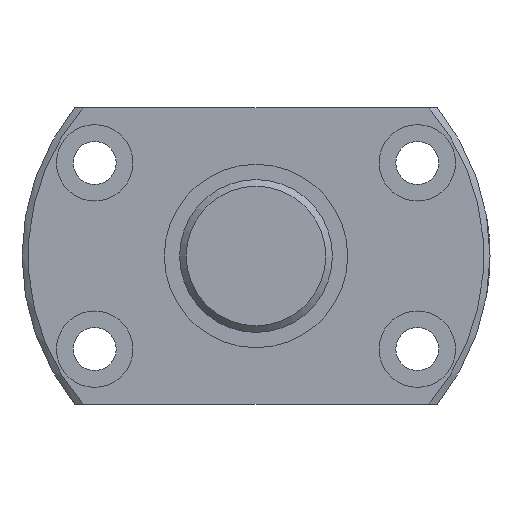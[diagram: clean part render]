
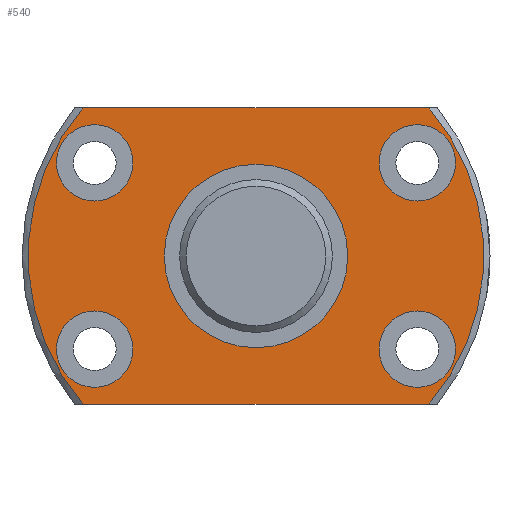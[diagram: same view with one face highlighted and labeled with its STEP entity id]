
A CAD part, left-side view. The second image highlights one B-rep face of the part: STEP entity #540.
In plain terms, the highlighted planar face has unit normal (-1, 0, 0).
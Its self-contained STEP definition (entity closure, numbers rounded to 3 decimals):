
#28=LINE('',#893,#36);
#29=LINE('',#898,#37);
#36=VECTOR('',#721,1000.);
#37=VECTOR('',#724,1000.);
#91=ORIENTED_EDGE('',*,*,#207,.T.);
#92=ORIENTED_EDGE('',*,*,#208,.T.);
#93=ORIENTED_EDGE('',*,*,#209,.T.);
#94=ORIENTED_EDGE('',*,*,#210,.T.);
#95=ORIENTED_EDGE('',*,*,#211,.T.);
#96=ORIENTED_EDGE('',*,*,#212,.F.);
#97=ORIENTED_EDGE('',*,*,#213,.T.);
#98=ORIENTED_EDGE('',*,*,#214,.F.);
#99=ORIENTED_EDGE('',*,*,#215,.T.);
#207=EDGE_CURVE('',#267,#267,#319,.T.);
#208=EDGE_CURVE('',#268,#268,#320,.T.);
#209=EDGE_CURVE('',#269,#269,#321,.T.);
#210=EDGE_CURVE('',#270,#270,#322,.T.);
#211=EDGE_CURVE('',#271,#271,#323,.T.);
#212=EDGE_CURVE('',#272,#273,#28,.T.);
#213=EDGE_CURVE('',#272,#274,#324,.F.);
#214=EDGE_CURVE('',#275,#274,#29,.T.);
#215=EDGE_CURVE('',#275,#273,#325,.F.);
#267=VERTEX_POINT('',#884);
#268=VERTEX_POINT('',#886);
#269=VERTEX_POINT('',#888);
#270=VERTEX_POINT('',#890);
#271=VERTEX_POINT('',#892);
#272=VERTEX_POINT('',#894);
#273=VERTEX_POINT('',#895);
#274=VERTEX_POINT('',#897);
#275=VERTEX_POINT('',#899);
#319=CIRCLE('',#613,9.6);
#320=CIRCLE('',#614,4.);
#321=CIRCLE('',#615,4.);
#322=CIRCLE('',#616,4.);
#323=CIRCLE('',#617,4.);
#324=CIRCLE('',#618,23.85);
#325=CIRCLE('',#619,23.85);
#365=EDGE_LOOP('',(#91));
#366=EDGE_LOOP('',(#92));
#367=EDGE_LOOP('',(#93));
#368=EDGE_LOOP('',(#94));
#369=EDGE_LOOP('',(#95));
#370=EDGE_LOOP('',(#96,#97,#98,#99));
#447=FACE_BOUND('',#365,.T.);
#448=FACE_BOUND('',#366,.T.);
#449=FACE_BOUND('',#367,.T.);
#450=FACE_BOUND('',#368,.T.);
#451=FACE_BOUND('',#369,.T.);
#452=FACE_BOUND('',#370,.T.);
#523=PLANE('',#612);
#540=ADVANCED_FACE('',(#447,#448,#449,#450,#451,#452),#523,.F.);
#612=AXIS2_PLACEMENT_3D('',#882,#709,#710);
#613=AXIS2_PLACEMENT_3D('',#883,#711,#712);
#614=AXIS2_PLACEMENT_3D('',#885,#713,#714);
#615=AXIS2_PLACEMENT_3D('',#887,#715,#716);
#616=AXIS2_PLACEMENT_3D('',#889,#717,#718);
#617=AXIS2_PLACEMENT_3D('',#891,#719,#720);
#618=AXIS2_PLACEMENT_3D('',#896,#722,#723);
#619=AXIS2_PLACEMENT_3D('',#900,#725,#726);
#709=DIRECTION('',(1.,0.,0.));
#710=DIRECTION('',(0.,0.,-1.));
#711=DIRECTION('',(1.,0.,0.));
#712=DIRECTION('',(0.,0.,-1.));
#713=DIRECTION('',(1.,0.,0.));
#714=DIRECTION('',(0.,0.,-1.));
#715=DIRECTION('',(1.,0.,0.));
#716=DIRECTION('',(0.,0.,-1.));
#717=DIRECTION('',(1.,0.,0.));
#718=DIRECTION('',(0.,0.,-1.));
#719=DIRECTION('',(1.,0.,0.));
#720=DIRECTION('',(0.,0.,-1.));
#721=DIRECTION('',(0.,1.,0.));
#722=DIRECTION('',(1.,0.,0.));
#723=DIRECTION('',(0.,0.,-1.));
#724=DIRECTION('',(0.,-1.,0.));
#725=DIRECTION('',(1.,0.,0.));
#726=DIRECTION('',(0.,0.,-1.));
#882=CARTESIAN_POINT('',(0.,0.,0.));
#883=CARTESIAN_POINT('',(0.,0.,0.));
#884=CARTESIAN_POINT('',(0.,0.,-9.6));
#885=CARTESIAN_POINT('',(0.,16.887,9.75));
#886=CARTESIAN_POINT('',(0.,16.887,5.75));
#887=CARTESIAN_POINT('',(0.,-16.887,-9.75));
#888=CARTESIAN_POINT('',(0.,-16.887,-13.75));
#889=CARTESIAN_POINT('',(0.,16.887,-9.75));
#890=CARTESIAN_POINT('',(0.,16.887,-13.75));
#891=CARTESIAN_POINT('',(0.,-16.887,9.75));
#892=CARTESIAN_POINT('',(0.,-16.887,5.75));
#893=CARTESIAN_POINT('',(0.,-18.974,-15.5));
#894=CARTESIAN_POINT('',(0.,-18.127,-15.5));
#895=CARTESIAN_POINT('',(0.,18.127,-15.5));
#896=CARTESIAN_POINT('',(0.,0.,0.));
#897=CARTESIAN_POINT('',(0.,-18.127,15.5));
#898=CARTESIAN_POINT('',(0.,18.974,15.5));
#899=CARTESIAN_POINT('',(0.,18.127,15.5));
#900=CARTESIAN_POINT('',(0.,0.,0.));
